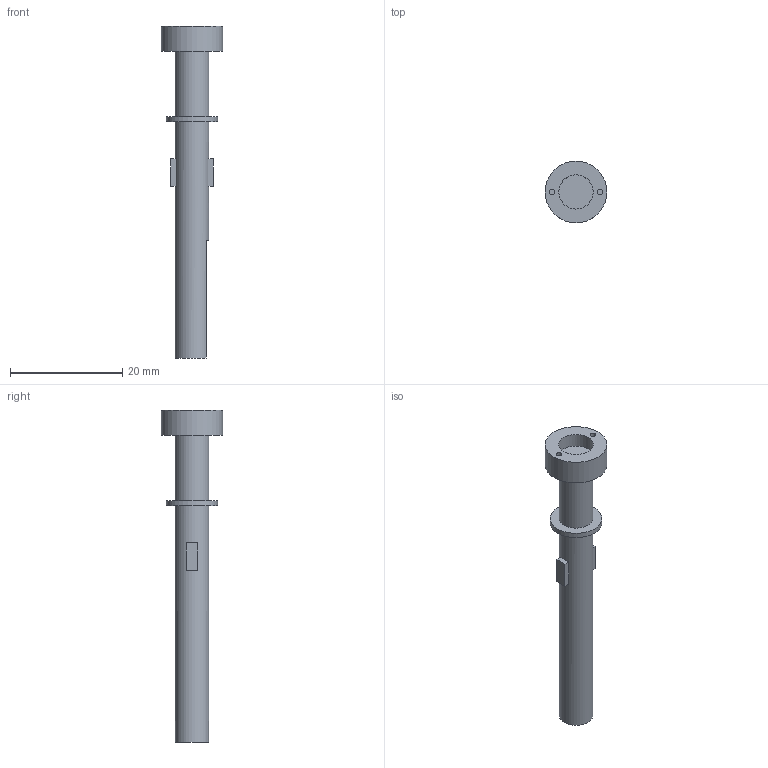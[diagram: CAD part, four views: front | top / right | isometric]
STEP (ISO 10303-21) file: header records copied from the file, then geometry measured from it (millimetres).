
FILE_DESCRIPTION(('Open CASCADE Model'),'2;1');
FILE_NAME('Open CASCADE Shape Model','2026-09-24T08:21:24',('Author'),( 'Open CASCADE'),'Open CASCADE STEP processor 7.8','Open CASCADE 7.8' ,'Unknown');
FILE_SCHEMA(('AUTOMOTIVE_DESIGN { 1 0 10303 214 1 1 1 1 }'));
Length unit declared in the file: millimetre
Products named in the file (1): Open CASCADE STEP translator 7.8 1
Bounding box: 11 x 11 x 59.1 mm (x, y, z)
Volume: 1924.9 mm3; surface area: 1542.8 mm2
Topology: 1 solids, 1 shells, 27 faces, 54 edges, 36 vertices
Faces by surface type: plane 20, cylinder 7
Full cylindrical faces by diameter (mm): 1 x2, 6 x2, 6.1 x1, 9.2 x1, 11 x1
Entity records: 1417 total; most frequent: DIRECTION 235, CARTESIAN_POINT 231, LINE 113, VECTOR 113, ORIENTED_EDGE 108, PCURVE 108, DEFINITIONAL_REPRESENTATION 108, EDGE_CURVE 54
